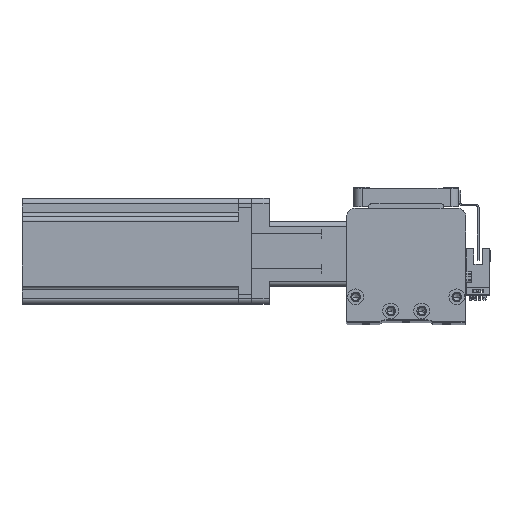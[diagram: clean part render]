
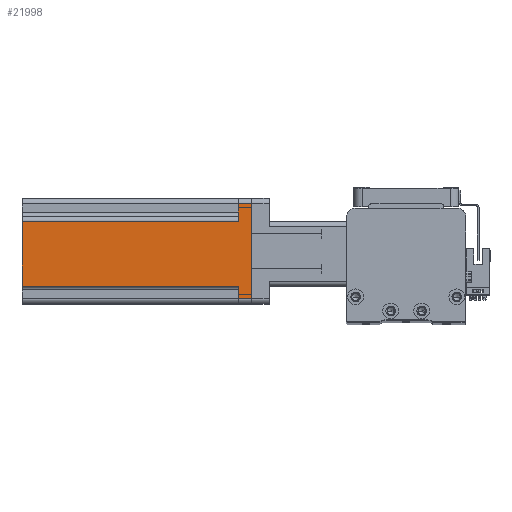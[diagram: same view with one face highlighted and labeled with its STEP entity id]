
A CAD part, top view. The second image highlights one B-rep face of the part: STEP entity #21998.
In plain terms, the highlighted planar face has unit normal (0, 0, 1) as drawn and (-1, 0, 0) by its records, which use the part's own axes.
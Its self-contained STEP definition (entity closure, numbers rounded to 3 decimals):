
#230 = VECTOR ( 'NONE', #39953, 1000. ) ;
#2077 = EDGE_CURVE ( 'NONE', #26824, #18909, #9395, .T. ) ;
#4186 = ORIENTED_EDGE ( 'NONE', *, *, #2077, .T. ) ;
#5443 = EDGE_CURVE ( 'NONE', #27687, #43189, #35862, .T. ) ;
#6576 = CARTESIAN_POINT ( 'NONE',  ( -30., -30., 0. ) ) ;
#6718 = DIRECTION ( 'NONE',  ( 0., 0., 1. ) ) ;
#8714 = ORIENTED_EDGE ( 'NONE', *, *, #40653, .F. ) ;
#9395 = LINE ( 'NONE', #33919, #17225 ) ;
#9820 = CARTESIAN_POINT ( 'NONE',  ( -30., 27., 7.5 ) ) ;
#9958 = VECTOR ( 'NONE', #40032, 1000. ) ;
#10245 = VECTOR ( 'NONE', #19734, 1000. ) ;
#10648 = CARTESIAN_POINT ( 'NONE',  ( -30., -30., 130.7 ) ) ;
#12035 = ORIENTED_EDGE ( 'NONE', *, *, #17580, .T. ) ;
#12177 = VECTOR ( 'NONE', #14324, 1000. ) ;
#13006 = CARTESIAN_POINT ( 'NONE',  ( -30., 20., 130.7 ) ) ;
#13484 = VERTEX_POINT ( 'NONE', #20951 ) ;
#14262 = CARTESIAN_POINT ( 'NONE',  ( -30., -30., 130.7 ) ) ;
#14324 = DIRECTION ( 'NONE',  ( 0., 0., 1. ) ) ;
#14505 = CARTESIAN_POINT ( 'NONE',  ( -30., -27., 7.5 ) ) ;
#14869 = ORIENTED_EDGE ( 'NONE', *, *, #37892, .F. ) ;
#15265 = ORIENTED_EDGE ( 'NONE', *, *, #43528, .T. ) ;
#16220 = AXIS2_PLACEMENT_3D ( 'NONE', #14262, #37703, #17657 ) ;
#16940 = VERTEX_POINT ( 'NONE', #13006 ) ;
#17225 = VECTOR ( 'NONE', #37304, 1000. ) ;
#17580 = EDGE_CURVE ( 'NONE', #19628, #34813, #27727, .T. ) ;
#17657 = DIRECTION ( 'NONE',  ( 0., 0., -1. ) ) ;
#18545 = ORIENTED_EDGE ( 'NONE', *, *, #5443, .F. ) ;
#18909 = VERTEX_POINT ( 'NONE', #9820 ) ;
#19365 = LINE ( 'NONE', #10648, #27220 ) ;
#19628 = VERTEX_POINT ( 'NONE', #26990 ) ;
#19734 = DIRECTION ( 'NONE',  ( 0., -1., 0. ) ) ;
#20745 = ORIENTED_EDGE ( 'NONE', *, *, #39660, .T. ) ;
#20951 = CARTESIAN_POINT ( 'NONE',  ( -30., -17., 130.7 ) ) ;
#21998 = ADVANCED_FACE ( 'NONE', ( #28662 ), #34161, .F. ) ;
#23040 = CARTESIAN_POINT ( 'NONE',  ( -30., 27., 130.7 ) ) ;
#23368 = VECTOR ( 'NONE', #32990, 1000. ) ;
#24276 = CARTESIAN_POINT ( 'NONE',  ( -30., -17., 7.5 ) ) ;
#26110 = EDGE_LOOP ( 'NONE', ( #18545, #31880, #8714, #14869, #4186, #15265, #12035, #20745 ) ) ;
#26615 = CARTESIAN_POINT ( 'NONE',  ( -30., -30., 7.5 ) ) ;
#26824 = VERTEX_POINT ( 'NONE', #35813 ) ;
#26990 = CARTESIAN_POINT ( 'NONE',  ( -30., 27., 0. ) ) ;
#27220 = VECTOR ( 'NONE', #34001, 1000. ) ;
#27669 = CARTESIAN_POINT ( 'NONE',  ( -30., -27., 0. ) ) ;
#27687 = VERTEX_POINT ( 'NONE', #24276 ) ;
#27704 = CARTESIAN_POINT ( 'NONE',  ( -30., -27., 130.7 ) ) ;
#27727 = LINE ( 'NONE', #6576, #9958 ) ;
#28662 = FACE_OUTER_BOUND ( 'NONE', #26110, .T. ) ;
#31880 = ORIENTED_EDGE ( 'NONE', *, *, #42397, .T. ) ;
#32827 = VECTOR ( 'NONE', #6718, 1000. ) ;
#32990 = DIRECTION ( 'NONE',  ( 0., 0., -1. ) ) ;
#33312 = LINE ( 'NONE', #23040, #23368 ) ;
#33525 = CARTESIAN_POINT ( 'NONE',  ( -30., 20., 7.5 ) ) ;
#33919 = CARTESIAN_POINT ( 'NONE',  ( -30., 30., 7.5 ) ) ;
#34001 = DIRECTION ( 'NONE',  ( 0., -1., 0. ) ) ;
#34161 = PLANE ( 'NONE',  #16220 ) ;
#34813 = VERTEX_POINT ( 'NONE', #27669 ) ;
#35813 = CARTESIAN_POINT ( 'NONE',  ( -30., 20., 7.5 ) ) ;
#35862 = LINE ( 'NONE', #26615, #10245 ) ;
#36571 = CARTESIAN_POINT ( 'NONE',  ( -30., -17., 130.7 ) ) ;
#37304 = DIRECTION ( 'NONE',  ( 0., 1., 0. ) ) ;
#37703 = DIRECTION ( 'NONE',  ( 1., 0., 0. ) ) ;
#37892 = EDGE_CURVE ( 'NONE', #26824, #16940, #41789, .T. ) ;
#38876 = LINE ( 'NONE', #27704, #12177 ) ;
#39660 = EDGE_CURVE ( 'NONE', #34813, #43189, #38876, .T. ) ;
#39953 = DIRECTION ( 'NONE',  ( 0., 0., 1. ) ) ;
#40032 = DIRECTION ( 'NONE',  ( 0., -1., 0. ) ) ;
#40653 = EDGE_CURVE ( 'NONE', #16940, #13484, #19365, .T. ) ;
#41789 = LINE ( 'NONE', #33525, #32827 ) ;
#42397 = EDGE_CURVE ( 'NONE', #27687, #13484, #42842, .T. ) ;
#42842 = LINE ( 'NONE', #36571, #230 ) ;
#43189 = VERTEX_POINT ( 'NONE', #14505 ) ;
#43528 = EDGE_CURVE ( 'NONE', #18909, #19628, #33312, .T. ) ;
